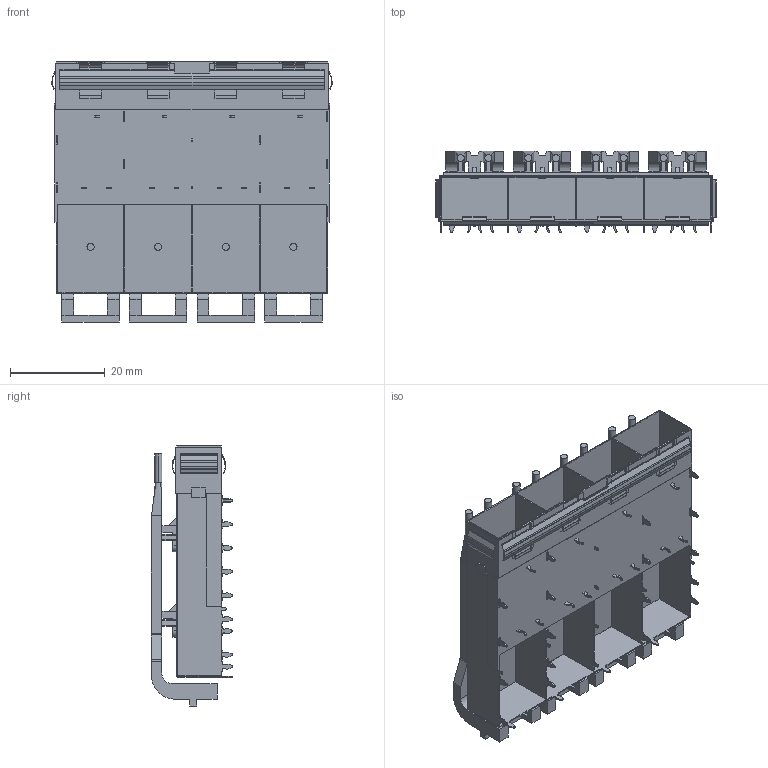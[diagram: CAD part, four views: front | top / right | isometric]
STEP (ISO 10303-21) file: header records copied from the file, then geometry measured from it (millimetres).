
FILE_DESCRIPTION (( 'STEP AP203' ), '1' );
FILE_NAME ('SFP+ 1X4短鱼眼 有月牙 13.57高导光柱.STEP', '2023-11-24T08:06:43', ( '' ), ( '' ), 'SwSTEP 2.0', 'SolidWorks 2018', '' );
FILE_SCHEMA (( 'CONFIG_CONTROL_DESIGN' ));
Length unit declared in the file: millimetre
Products named in the file (1): SFP+ 1X4短鱼眼 有月牙 13.57高导光柱
Bounding box: 59.05 x 17.07 x 54.82 mm (x, y, z)
Volume: 5013.2 mm3; surface area: 21235.9 mm2
Topology: 1 solids, 1 shells, 1674 faces, 4793 edges, 3126 vertices
Faces by surface type: plane 885, cylinder 691, torus 64, bspline 32, sphere 2
Entity records: 55402 total; most frequent: CARTESIAN_POINT 10200, ORIENTED_EDGE 9582, DIRECTION 9555, EDGE_CURVE 4791, VECTOR 3313, LINE 3313, VERTEX_POINT 3126, AXIS2_PLACEMENT_3D 3121
